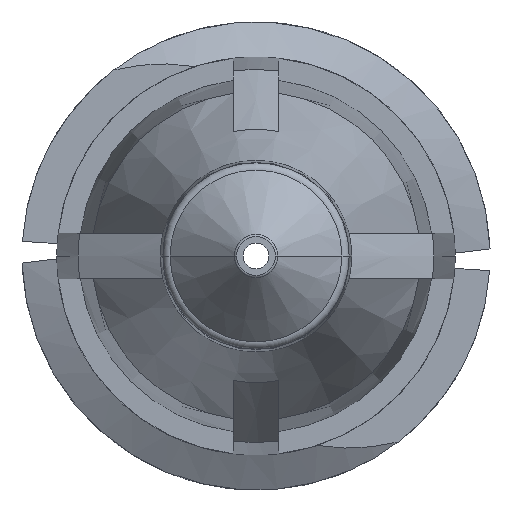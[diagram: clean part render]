
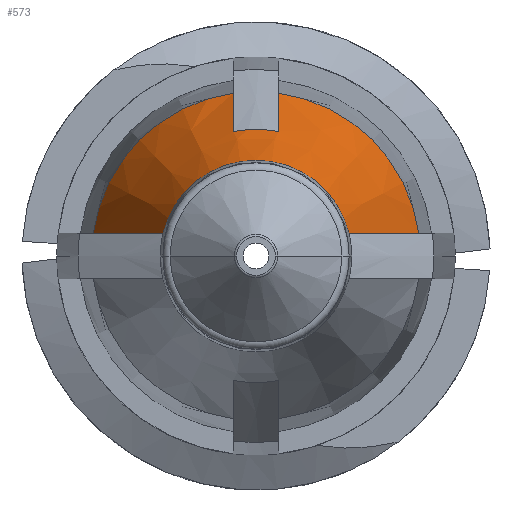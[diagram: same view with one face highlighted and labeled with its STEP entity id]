
A CAD part, front view. The second image highlights one B-rep face of the part: STEP entity #573.
In plain terms, the highlighted conical face has half-angle 20 degrees and reference radius 2.745 mm.
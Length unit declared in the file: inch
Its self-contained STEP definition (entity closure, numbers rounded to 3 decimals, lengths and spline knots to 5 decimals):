
#112 = VERTEX_POINT ( 'NONE', #2474 ) ;
#111 = CARTESIAN_POINT ( 'NONE',  ( -0.07664, -0.48863, 0.015 ) ) ;
#117 = CARTESIAN_POINT ( 'NONE',  ( -0.015, -0.47395, 0.08198 ) ) ;
#155 = DIRECTION ( 'NONE',  ( 0., 1., 0. ) ) ;
#257 = CARTESIAN_POINT ( 'NONE',  ( 0.09185, -0.44732, 0.015 ) ) ;
#273 = CIRCLE ( 'NONE', #768, 0.10808 ) ;
#339 = CARTESIAN_POINT ( 'NONE',  ( 0., -0.406, 0. ) ) ;
#349 = VERTEX_POINT ( 'NONE', #2035 ) ;
#371 = CARTESIAN_POINT ( 'NONE',  ( -0.10703, -0.406, 0.015 ) ) ;
#384 = CARTESIAN_POINT ( 'NONE',  ( -0.015, -0.406, 0.10703 ) ) ;
#421 = ORIENTED_EDGE ( 'NONE', *, *, #744, .F. ) ;
#451 = FACE_OUTER_BOUND ( 'NONE', #1714, .T. ) ;
#573 = ADVANCED_FACE ( 'NONE', ( #451 ), #685, .T. ) ;
#576 = EDGE_CURVE ( 'NONE', #2614, #349, #694, .T. ) ;
#587 = ORIENTED_EDGE ( 'NONE', *, *, #576, .F. ) ;
#609 = ORIENTED_EDGE ( 'NONE', *, *, #2112, .F. ) ;
#659 = ORIENTED_EDGE ( 'NONE', *, *, #2013, .T. ) ;
#685 = CONICAL_SURFACE ( 'NONE', #1579, 0.10808, 0.349 ) ;
#693 = VERTEX_POINT ( 'NONE', #1730 ) ;
#694 = B_SPLINE_CURVE_WITH_KNOTS ( 'NONE', 3,
 ( #2734, #111, #1380, #371 ),
 .UNSPECIFIED., .F., .F.,
 ( 4, 4 ),
 ( 0.00282, 0.00617 ),
 .UNSPECIFIED. ) ;
#728 = VERTEX_POINT ( 'NONE', #3036 ) ;
#744 = EDGE_CURVE ( 'NONE', #728, #112, #1761, .T. ) ;
#768 = AXIS2_PLACEMENT_3D ( 'NONE', #2089, #772, #2626 ) ;
#772 = DIRECTION ( 'NONE',  ( 0., 1., 0. ) ) ;
#799 = CARTESIAN_POINT ( 'NONE',  ( 0.015, -0.45131, 0.09036 ) ) ;
#826 = EDGE_CURVE ( 'NONE', #1016, #728, #2096, .T. ) ;
#839 = VERTEX_POINT ( 'NONE', #2688 ) ;
#916 = ORIENTED_EDGE ( 'NONE', *, *, #937, .F. ) ;
#937 = EDGE_CURVE ( 'NONE', #2244, #1016, #3099, .T. ) ;
#1003 = CARTESIAN_POINT ( 'NONE',  ( 0.07664, -0.48863, 0.015 ) ) ;
#1016 = VERTEX_POINT ( 'NONE', #2964 ) ;
#1145 = DIRECTION ( 'NONE',  ( 0., 1., 0. ) ) ;
#1177 = CIRCLE ( 'NONE', #1601, 0.063 ) ;
#1242 = CARTESIAN_POINT ( 'NONE',  ( 0., -0.52985, 0. ) ) ;
#1322 = CARTESIAN_POINT ( 'NONE',  ( 0.015, -0.406, 0.10703 ) ) ;
#1380 = CARTESIAN_POINT ( 'NONE',  ( -0.09185, -0.44732, 0.015 ) ) ;
#1386 = CIRCLE ( 'NONE', #3330, 0.10808 ) ;
#1413 = CARTESIAN_POINT ( 'NONE',  ( -0.015, -0.42866, 0.0987 ) ) ;
#1479 = CARTESIAN_POINT ( 'NONE',  ( 0., -0.406, 0. ) ) ;
#1509 = DIRECTION ( 'NONE',  ( -1., 0., 0. ) ) ;
#1531 = CARTESIAN_POINT ( 'NONE',  ( 0.10703, -0.406, 0.015 ) ) ;
#1579 = AXIS2_PLACEMENT_3D ( 'NONE', #339, #1145, #3247 ) ;
#1601 = AXIS2_PLACEMENT_3D ( 'NONE', #1242, #2807, #1770 ) ;
#1661 = DIRECTION ( 'NONE',  ( 1., 0., 0. ) ) ;
#1714 = EDGE_LOOP ( 'NONE', ( #587, #659, #2454, #2187, #421, #2390, #916, #609 ) ) ;
#1730 = CARTESIAN_POINT ( 'NONE',  ( 0.06119, -0.52985, 0.015 ) ) ;
#1761 = B_SPLINE_CURVE_WITH_KNOTS ( 'NONE', 3,
 ( #2904, #799, #1829, #1322 ),
 .UNSPECIFIED., .F., .F.,
 ( 4, 4 ),
 ( 0.00247, 0.00431 ),
 .UNSPECIFIED. ) ;
#1770 = DIRECTION ( 'NONE',  ( -1., 0., 0. ) ) ;
#1802 = CARTESIAN_POINT ( 'NONE',  ( 0.06119, -0.52985, 0.015 ) ) ;
#1829 = CARTESIAN_POINT ( 'NONE',  ( 0.015, -0.42866, 0.0987 ) ) ;
#2013 = EDGE_CURVE ( 'NONE', #2614, #693, #1177, .T. ) ;
#2031 = B_SPLINE_CURVE_WITH_KNOTS ( 'NONE', 3,
 ( #1802, #1003, #257, #1531 ),
 .UNSPECIFIED., .F., .F.,
 ( 4, 4 ),
 ( 0.00282, 0.00617 ),
 .UNSPECIFIED. ) ;
#2035 = CARTESIAN_POINT ( 'NONE',  ( -0.10703, -0.406, 0.015 ) ) ;
#2089 = CARTESIAN_POINT ( 'NONE',  ( 0., -0.406, 0. ) ) ;
#2096 = CIRCLE ( 'NONE', #2810, 0.08335 ) ;
#2112 = EDGE_CURVE ( 'NONE', #349, #2244, #273, .T. ) ;
#2187 = ORIENTED_EDGE ( 'NONE', *, *, #3165, .F. ) ;
#2244 = VERTEX_POINT ( 'NONE', #384 ) ;
#2390 = ORIENTED_EDGE ( 'NONE', *, *, #826, .F. ) ;
#2433 = DIRECTION ( 'NONE',  ( 0., 1., 0. ) ) ;
#2454 = ORIENTED_EDGE ( 'NONE', *, *, #2487, .T. ) ;
#2466 = CARTESIAN_POINT ( 'NONE',  ( -0.015, -0.406, 0.10703 ) ) ;
#2474 = CARTESIAN_POINT ( 'NONE',  ( 0.015, -0.406, 0.10703 ) ) ;
#2487 = EDGE_CURVE ( 'NONE', #693, #839, #2031, .T. ) ;
#2614 = VERTEX_POINT ( 'NONE', #2915 ) ;
#2626 = DIRECTION ( 'NONE',  ( -1., 0., 0. ) ) ;
#2688 = CARTESIAN_POINT ( 'NONE',  ( 0.10703, -0.406, 0.015 ) ) ;
#2734 = CARTESIAN_POINT ( 'NONE',  ( -0.06119, -0.52985, 0.015 ) ) ;
#2737 = CARTESIAN_POINT ( 'NONE',  ( -0.015, -0.45131, 0.09036 ) ) ;
#2807 = DIRECTION ( 'NONE',  ( 0., 1., 0. ) ) ;
#2810 = AXIS2_PLACEMENT_3D ( 'NONE', #2947, #2433, #1661 ) ;
#2904 = CARTESIAN_POINT ( 'NONE',  ( 0.015, -0.47395, 0.08198 ) ) ;
#2915 = CARTESIAN_POINT ( 'NONE',  ( -0.06119, -0.52985, 0.015 ) ) ;
#2947 = CARTESIAN_POINT ( 'NONE',  ( 0., -0.47395, 0. ) ) ;
#2964 = CARTESIAN_POINT ( 'NONE',  ( -0.015, -0.47395, 0.08198 ) ) ;
#3036 = CARTESIAN_POINT ( 'NONE',  ( 0.015, -0.47395, 0.08198 ) ) ;
#3099 = B_SPLINE_CURVE_WITH_KNOTS ( 'NONE', 3,
 ( #2466, #1413, #2737, #117 ),
 .UNSPECIFIED., .F., .F.,
 ( 4, 4 ),
 ( 0.00343, 0.00527 ),
 .UNSPECIFIED. ) ;
#3165 = EDGE_CURVE ( 'NONE', #112, #839, #1386, .T. ) ;
#3247 = DIRECTION ( 'NONE',  ( -1., 0., 0. ) ) ;
#3330 = AXIS2_PLACEMENT_3D ( 'NONE', #1479, #155, #1509 ) ;
